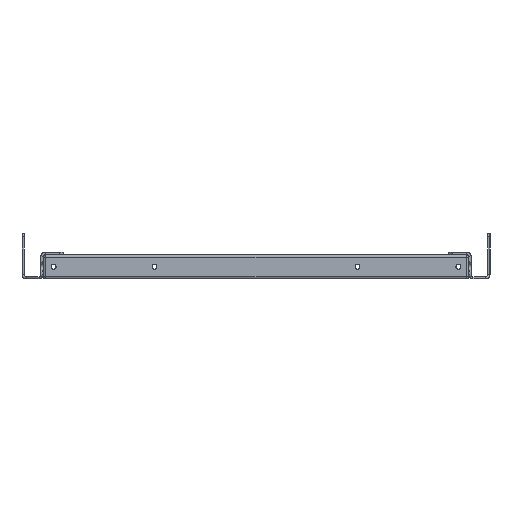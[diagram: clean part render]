
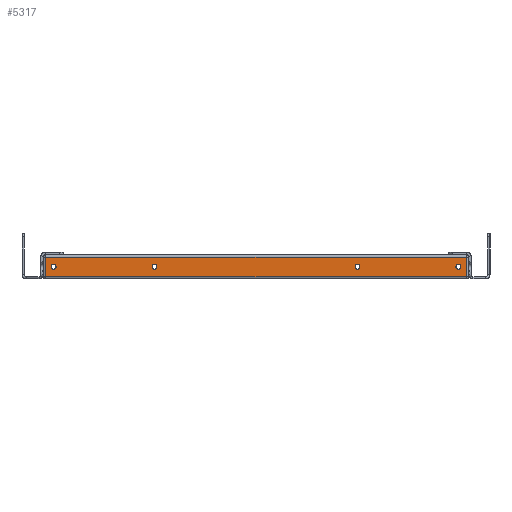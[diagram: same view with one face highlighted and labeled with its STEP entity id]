
A CAD part, left-side view. The second image highlights one B-rep face of the part: STEP entity #5317.
In plain terms, the highlighted planar face has unit normal (-1, 0, 0).
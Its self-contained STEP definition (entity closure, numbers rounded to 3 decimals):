
#106 = DIRECTION ( 'NONE',  ( 0., 0., 1. ) ) ;
#446 = AXIS2_PLACEMENT_3D ( 'NONE', #6706, #9588, #3808 ) ;
#551 = VERTEX_POINT ( 'NONE', #4784 ) ;
#606 = CIRCLE ( 'NONE', #1707, 2. ) ;
#695 = CIRCLE ( 'NONE', #11059, 2. ) ;
#994 = DIRECTION ( 'NONE',  ( 1., 0., 0. ) ) ;
#1058 = EDGE_CURVE ( 'NONE', #551, #7143, #4166, .T. ) ;
#1111 = EDGE_LOOP ( 'NONE', ( #11428, #7463 ) ) ;
#1326 = DIRECTION ( 'NONE',  ( 0., 0., -1. ) ) ;
#1402 = FACE_BOUND ( 'NONE', #9725, .T. ) ;
#1650 = DIRECTION ( 'NONE',  ( 0., 0., -1. ) ) ;
#1707 = AXIS2_PLACEMENT_3D ( 'NONE', #2423, #5480, #9266 ) ;
#1937 = VERTEX_POINT ( 'NONE', #8870 ) ;
#2022 = DIRECTION ( 'NONE',  ( 0., 1., 0. ) ) ;
#2125 = CARTESIAN_POINT ( 'NONE',  ( -425., -166.5, 10. ) ) ;
#2346 = AXIS2_PLACEMENT_3D ( 'NONE', #6140, #3194, #1326 ) ;
#2423 = CARTESIAN_POINT ( 'NONE',  ( -425., 166.5, 10. ) ) ;
#2777 = DIRECTION ( 'NONE',  ( 1., 0., 0. ) ) ;
#2866 = CARTESIAN_POINT ( 'NONE',  ( -425., -166.5, 8. ) ) ;
#3043 = CIRCLE ( 'NONE', #7841, 2. ) ;
#3062 = VERTEX_POINT ( 'NONE', #4847 ) ;
#3194 = DIRECTION ( 'NONE',  ( 1., 0., 0. ) ) ;
#3496 = EDGE_CURVE ( 'NONE', #1937, #3929, #4026, .T. ) ;
#3736 = CARTESIAN_POINT ( 'NONE',  ( -425., -173., 18. ) ) ;
#3808 = DIRECTION ( 'NONE',  ( 0., 0., 1. ) ) ;
#3838 = CIRCLE ( 'NONE', #446, 2. ) ;
#3929 = VERTEX_POINT ( 'NONE', #9469 ) ;
#4005 = CARTESIAN_POINT ( 'NONE',  ( -425., -166.5, 10. ) ) ;
#4026 = LINE ( 'NONE', #6417, #10020 ) ;
#4074 = LINE ( 'NONE', #7928, #10072 ) ;
#4166 = CIRCLE ( 'NONE', #11019, 2. ) ;
#4374 = ORIENTED_EDGE ( 'NONE', *, *, #10777, .T. ) ;
#4401 = EDGE_CURVE ( 'NONE', #8859, #7205, #3838, .T. ) ;
#4465 = ORIENTED_EDGE ( 'NONE', *, *, #1058, .F. ) ;
#4636 = CIRCLE ( 'NONE', #6365, 2. ) ;
#4676 = EDGE_LOOP ( 'NONE', ( #4374, #12174 ) ) ;
#4695 = CARTESIAN_POINT ( 'NONE',  ( -425., -175., 2. ) ) ;
#4784 = CARTESIAN_POINT ( 'NONE',  ( -425., 83.5, 12. ) ) ;
#4815 = CARTESIAN_POINT ( 'NONE',  ( -425., -166.5, 12. ) ) ;
#4847 = CARTESIAN_POINT ( 'NONE',  ( -425., -83.5, 8. ) ) ;
#4937 = ORIENTED_EDGE ( 'NONE', *, *, #8418, .T. ) ;
#5109 = ORIENTED_EDGE ( 'NONE', *, *, #7003, .F. ) ;
#5317 = ADVANCED_FACE ( 'NONE', ( #9392, #1402, #11986, #5841, #10461 ), #7184, .F. ) ;
#5480 = DIRECTION ( 'NONE',  ( -1., 0., 0. ) ) ;
#5515 = CARTESIAN_POINT ( 'NONE',  ( -425., 83.5, 8. ) ) ;
#5841 = FACE_BOUND ( 'NONE', #1111, .T. ) ;
#5846 = VECTOR ( 'NONE', #106, 1000. ) ;
#5891 = DIRECTION ( 'NONE',  ( 1., 0., 0. ) ) ;
#6076 = DIRECTION ( 'NONE',  ( -1., 0., 0. ) ) ;
#6140 = CARTESIAN_POINT ( 'NONE',  ( -425., -175., 20. ) ) ;
#6365 = AXIS2_PLACEMENT_3D ( 'NONE', #2125, #5891, #8929 ) ;
#6417 = CARTESIAN_POINT ( 'NONE',  ( -425., 173., 20. ) ) ;
#6667 = VERTEX_POINT ( 'NONE', #3736 ) ;
#6706 = CARTESIAN_POINT ( 'NONE',  ( -425., 166.5, 10. ) ) ;
#6711 = EDGE_CURVE ( 'NONE', #3929, #10808, #10428, .T. ) ;
#6725 = DIRECTION ( 'NONE',  ( 0., 0., 1. ) ) ;
#6980 = ORIENTED_EDGE ( 'NONE', *, *, #7639, .F. ) ;
#7003 = EDGE_CURVE ( 'NONE', #7205, #8859, #606, .T. ) ;
#7143 = VERTEX_POINT ( 'NONE', #5515 ) ;
#7160 = EDGE_CURVE ( 'NONE', #3062, #7827, #3043, .T. ) ;
#7184 = PLANE ( 'NONE',  #2346 ) ;
#7190 = DIRECTION ( 'NONE',  ( 0., 0., 1. ) ) ;
#7205 = VERTEX_POINT ( 'NONE', #8770 ) ;
#7327 = CIRCLE ( 'NONE', #8623, 2. ) ;
#7463 = ORIENTED_EDGE ( 'NONE', *, *, #8488, .T. ) ;
#7639 = EDGE_CURVE ( 'NONE', #7143, #551, #7327, .T. ) ;
#7645 = CARTESIAN_POINT ( 'NONE',  ( -425., 83.5, 10. ) ) ;
#7745 = VERTEX_POINT ( 'NONE', #4815 ) ;
#7817 = CARTESIAN_POINT ( 'NONE',  ( -425., 166.5, 8. ) ) ;
#7827 = VERTEX_POINT ( 'NONE', #9824 ) ;
#7841 = AXIS2_PLACEMENT_3D ( 'NONE', #8601, #2777, #10557 ) ;
#7928 = CARTESIAN_POINT ( 'NONE',  ( -425., 175., 18. ) ) ;
#8416 = AXIS2_PLACEMENT_3D ( 'NONE', #4005, #994, #9782 ) ;
#8418 = EDGE_CURVE ( 'NONE', #6667, #1937, #4074, .T. ) ;
#8488 = EDGE_CURVE ( 'NONE', #12130, #7745, #11318, .T. ) ;
#8601 = CARTESIAN_POINT ( 'NONE',  ( -425., -83.5, 10. ) ) ;
#8623 = AXIS2_PLACEMENT_3D ( 'NONE', #7645, #11607, #11642 ) ;
#8770 = CARTESIAN_POINT ( 'NONE',  ( -425., 166.5, 12. ) ) ;
#8859 = VERTEX_POINT ( 'NONE', #7817 ) ;
#8870 = CARTESIAN_POINT ( 'NONE',  ( -425., 173., 18. ) ) ;
#8872 = CARTESIAN_POINT ( 'NONE',  ( -425., -83.5, 10. ) ) ;
#8912 = EDGE_LOOP ( 'NONE', ( #11993, #4937, #10801, #8993 ) ) ;
#8929 = DIRECTION ( 'NONE',  ( 0., 0., 1. ) ) ;
#8993 = ORIENTED_EDGE ( 'NONE', *, *, #6711, .T. ) ;
#9175 = CARTESIAN_POINT ( 'NONE',  ( -425., 83.5, 10. ) ) ;
#9266 = DIRECTION ( 'NONE',  ( 0., 0., 1. ) ) ;
#9392 = FACE_BOUND ( 'NONE', #11254, .T. ) ;
#9469 = CARTESIAN_POINT ( 'NONE',  ( -425., 173., 2. ) ) ;
#9588 = DIRECTION ( 'NONE',  ( -1., 0., 0. ) ) ;
#9725 = EDGE_LOOP ( 'NONE', ( #5109, #12156 ) ) ;
#9761 = EDGE_CURVE ( 'NONE', #7745, #12130, #4636, .T. ) ;
#9782 = DIRECTION ( 'NONE',  ( 0., 0., 1. ) ) ;
#9803 = VECTOR ( 'NONE', #11553, 1000. ) ;
#9824 = CARTESIAN_POINT ( 'NONE',  ( -425., -83.5, 12. ) ) ;
#10020 = VECTOR ( 'NONE', #1650, 1000. ) ;
#10072 = VECTOR ( 'NONE', #2022, 1000. ) ;
#10428 = LINE ( 'NONE', #4695, #9803 ) ;
#10461 = FACE_BOUND ( 'NONE', #4676, .T. ) ;
#10469 = LINE ( 'NONE', #10836, #5846 ) ;
#10557 = DIRECTION ( 'NONE',  ( 0., 0., 1. ) ) ;
#10777 = EDGE_CURVE ( 'NONE', #7827, #3062, #695, .T. ) ;
#10801 = ORIENTED_EDGE ( 'NONE', *, *, #3496, .T. ) ;
#10808 = VERTEX_POINT ( 'NONE', #11017 ) ;
#10836 = CARTESIAN_POINT ( 'NONE',  ( -425., -173., 20. ) ) ;
#11017 = CARTESIAN_POINT ( 'NONE',  ( -425., -173., 2. ) ) ;
#11019 = AXIS2_PLACEMENT_3D ( 'NONE', #9175, #6076, #7190 ) ;
#11059 = AXIS2_PLACEMENT_3D ( 'NONE', #8872, #11661, #6725 ) ;
#11254 = EDGE_LOOP ( 'NONE', ( #4465, #6980 ) ) ;
#11318 = CIRCLE ( 'NONE', #8416, 2. ) ;
#11428 = ORIENTED_EDGE ( 'NONE', *, *, #9761, .T. ) ;
#11553 = DIRECTION ( 'NONE',  ( 0., -1., 0. ) ) ;
#11607 = DIRECTION ( 'NONE',  ( -1., 0., 0. ) ) ;
#11642 = DIRECTION ( 'NONE',  ( 0., 0., 1. ) ) ;
#11661 = DIRECTION ( 'NONE',  ( 1., 0., 0. ) ) ;
#11986 = FACE_OUTER_BOUND ( 'NONE', #8912, .T. ) ;
#11993 = ORIENTED_EDGE ( 'NONE', *, *, #12249, .T. ) ;
#12130 = VERTEX_POINT ( 'NONE', #2866 ) ;
#12156 = ORIENTED_EDGE ( 'NONE', *, *, #4401, .F. ) ;
#12174 = ORIENTED_EDGE ( 'NONE', *, *, #7160, .T. ) ;
#12249 = EDGE_CURVE ( 'NONE', #10808, #6667, #10469, .T. ) ;
